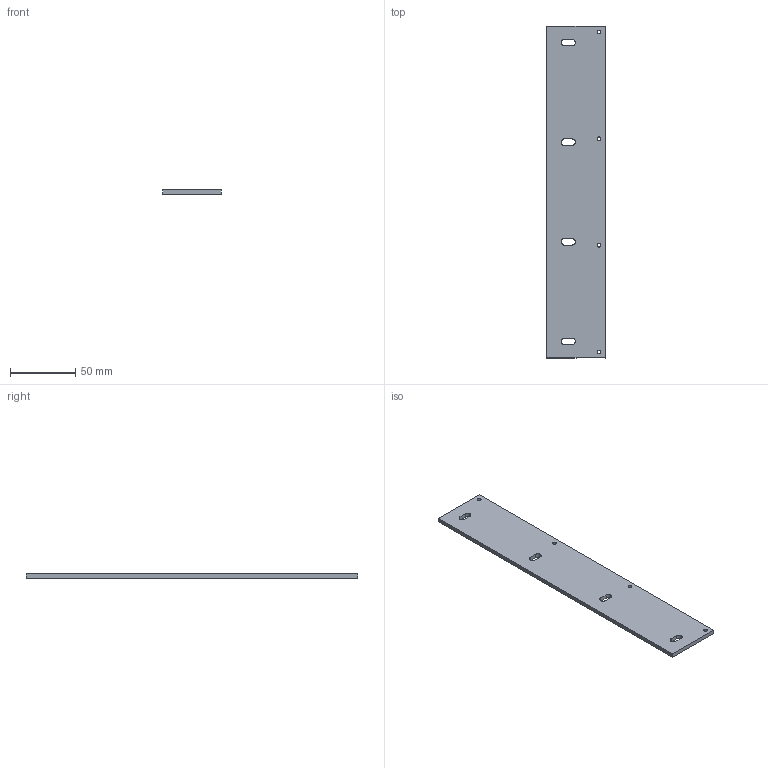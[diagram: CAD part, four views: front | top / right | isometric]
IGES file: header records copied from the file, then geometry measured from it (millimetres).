
Start section: SolidWorks IGES file using analytic representation for surfaces
Global section: file name: C:\Users\Public\Documents\Plasma and CNC\CNC Router\Exports for OpenBuilds\Rack Plate.IGS; native system: SolidWorks 2010; preprocessor: SolidWorks 2010; author: Neil; date: 140127.163909; units: inch
Bounding box: 44.45 x 254 x 3.17 mm (x, y, z)
Surface area: 24497.2 mm2 (no closed solid volume)
Topology: 0 solids, 0 shells, 34 faces, 664 edges, 664 vertices
Faces by surface type: revolution 20, bspline 14
